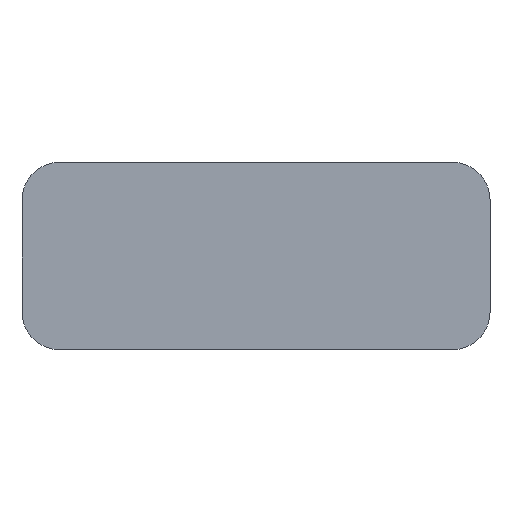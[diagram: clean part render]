
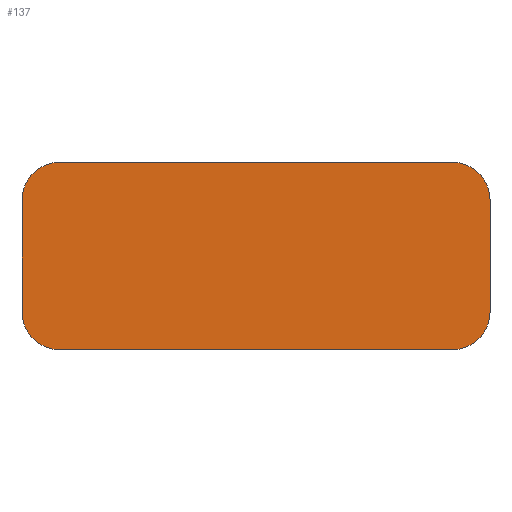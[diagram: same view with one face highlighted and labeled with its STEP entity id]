
A CAD part, top view. The second image highlights one B-rep face of the part: STEP entity #137.
In plain terms, the highlighted planar face has unit normal (0, 0, 1).
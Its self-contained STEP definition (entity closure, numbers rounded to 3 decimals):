
#21 = EDGE_CURVE('',#22,#24,#26,.T.);
#22 = VERTEX_POINT('',#23);
#23 = CARTESIAN_POINT('',(-30.,43.5,-7.8));
#24 = VERTEX_POINT('',#25);
#25 = CARTESIAN_POINT('',(-30.,45.3,-7.8));
#26 = SURFACE_CURVE('',#27,(#31,#43),.PCURVE_S1.);
#27 = LINE('',#28,#29);
#28 = CARTESIAN_POINT('',(-30.,42.9,-7.8));
#29 = VECTOR('',#30,1.);
#30 = DIRECTION('',(-0.,1.,0.));
#31 = PCURVE('',#32,#37);
#32 = PLANE('',#33);
#33 = AXIS2_PLACEMENT_3D('',#34,#35,#36);
#34 = CARTESIAN_POINT('',(-30.,42.9,-7.9));
#35 = DIRECTION('',(1.,0.,-0.));
#36 = DIRECTION('',(0.,0.,1.));
#37 = DEFINITIONAL_REPRESENTATION('',(#38),#42);
#38 = LINE('',#39,#40);
#39 = CARTESIAN_POINT('',(0.1,0.));
#40 = VECTOR('',#41,1.);
#41 = DIRECTION('',(0.,-1.));
#42 = ( GEOMETRIC_REPRESENTATION_CONTEXT(2) 
PARAMETRIC_REPRESENTATION_CONTEXT() REPRESENTATION_CONTEXT('2D SPACE',''
  ) );
#43 = PCURVE('',#44,#49);
#44 = PLANE('',#45);
#45 = AXIS2_PLACEMENT_3D('',#46,#47,#48);
#46 = CARTESIAN_POINT('',(-30.,42.9,-7.8));
#47 = DIRECTION('',(0.,0.,1.));
#48 = DIRECTION('',(1.,0.,-0.));
#49 = DEFINITIONAL_REPRESENTATION('',(#50),#54);
#50 = LINE('',#51,#52);
#51 = CARTESIAN_POINT('',(0.,0.));
#52 = VECTOR('',#53,1.);
#53 = DIRECTION('',(0.,1.));
#54 = ( GEOMETRIC_REPRESENTATION_CONTEXT(2) 
PARAMETRIC_REPRESENTATION_CONTEXT() REPRESENTATION_CONTEXT('2D SPACE',''
  ) );
#72 = CYLINDRICAL_SURFACE('',#73,0.6);
#73 = AXIS2_PLACEMENT_3D('',#74,#75,#76);
#74 = CARTESIAN_POINT('',(-29.4,43.5,-7.9));
#75 = DIRECTION('',(0.,0.,1.));
#76 = DIRECTION('',(-1.,-0.,0.));
#126 = CYLINDRICAL_SURFACE('',#127,0.6);
#127 = AXIS2_PLACEMENT_3D('',#128,#129,#130);
#128 = CARTESIAN_POINT('',(-29.4,45.3,-7.9));
#129 = DIRECTION('',(0.,0.,1.));
#130 = DIRECTION('',(-1.,-0.,0.));
#137 = ADVANCED_FACE('',(#138),#44,.T.);
#138 = FACE_BOUND('',#139,.T.);
#139 = EDGE_LOOP('',(#140,#141,#165,#193,#226,#254,#283,#311));
#140 = ORIENTED_EDGE('',*,*,#21,.F.);
#141 = ORIENTED_EDGE('',*,*,#142,.T.);
#142 = EDGE_CURVE('',#22,#143,#145,.T.);
#143 = VERTEX_POINT('',#144);
#144 = CARTESIAN_POINT('',(-29.4,42.9,-7.8));
#145 = SURFACE_CURVE('',#146,(#151,#158),.PCURVE_S1.);
#146 = CIRCLE('',#147,0.6);
#147 = AXIS2_PLACEMENT_3D('',#148,#149,#150);
#148 = CARTESIAN_POINT('',(-29.4,43.5,-7.8));
#149 = DIRECTION('',(0.,0.,1.));
#150 = DIRECTION('',(0.,-1.,0.));
#151 = PCURVE('',#44,#152);
#152 = DEFINITIONAL_REPRESENTATION('',(#153),#157);
#153 = CIRCLE('',#154,0.6);
#154 = AXIS2_PLACEMENT_2D('',#155,#156);
#155 = CARTESIAN_POINT('',(0.6,0.6));
#156 = DIRECTION('',(0.,-1.));
#157 = ( GEOMETRIC_REPRESENTATION_CONTEXT(2) 
PARAMETRIC_REPRESENTATION_CONTEXT() REPRESENTATION_CONTEXT('2D SPACE',''
  ) );
#158 = PCURVE('',#72,#159);
#159 = DEFINITIONAL_REPRESENTATION('',(#160),#164);
#160 = LINE('',#161,#162);
#161 = CARTESIAN_POINT('',(-4.712,0.1));
#162 = VECTOR('',#163,1.);
#163 = DIRECTION('',(1.,0.));
#164 = ( GEOMETRIC_REPRESENTATION_CONTEXT(2) 
PARAMETRIC_REPRESENTATION_CONTEXT() REPRESENTATION_CONTEXT('2D SPACE',''
  ) );
#165 = ORIENTED_EDGE('',*,*,#166,.T.);
#166 = EDGE_CURVE('',#143,#167,#169,.T.);
#167 = VERTEX_POINT('',#168);
#168 = CARTESIAN_POINT('',(-23.1,42.9,-7.8));
#169 = SURFACE_CURVE('',#170,(#174,#181),.PCURVE_S1.);
#170 = LINE('',#171,#172);
#171 = CARTESIAN_POINT('',(-30.,42.9,-7.8));
#172 = VECTOR('',#173,1.);
#173 = DIRECTION('',(1.,0.,-0.));
#174 = PCURVE('',#44,#175);
#175 = DEFINITIONAL_REPRESENTATION('',(#176),#180);
#176 = LINE('',#177,#178);
#177 = CARTESIAN_POINT('',(0.,0.));
#178 = VECTOR('',#179,1.);
#179 = DIRECTION('',(1.,0.));
#180 = ( GEOMETRIC_REPRESENTATION_CONTEXT(2) 
PARAMETRIC_REPRESENTATION_CONTEXT() REPRESENTATION_CONTEXT('2D SPACE',''
  ) );
#181 = PCURVE('',#182,#187);
#182 = PLANE('',#183);
#183 = AXIS2_PLACEMENT_3D('',#184,#185,#186);
#184 = CARTESIAN_POINT('',(-30.,42.9,-7.9));
#185 = DIRECTION('',(-0.,1.,0.));
#186 = DIRECTION('',(0.,0.,1.));
#187 = DEFINITIONAL_REPRESENTATION('',(#188),#192);
#188 = LINE('',#189,#190);
#189 = CARTESIAN_POINT('',(0.1,0.));
#190 = VECTOR('',#191,1.);
#191 = DIRECTION('',(0.,1.));
#192 = ( GEOMETRIC_REPRESENTATION_CONTEXT(2) 
PARAMETRIC_REPRESENTATION_CONTEXT() REPRESENTATION_CONTEXT('2D SPACE',''
  ) );
#193 = ORIENTED_EDGE('',*,*,#194,.F.);
#194 = EDGE_CURVE('',#195,#167,#197,.T.);
#195 = VERTEX_POINT('',#196);
#196 = CARTESIAN_POINT('',(-22.5,43.5,-7.8));
#197 = SURFACE_CURVE('',#198,(#203,#214),.PCURVE_S1.);
#198 = CIRCLE('',#199,0.6);
#199 = AXIS2_PLACEMENT_3D('',#200,#201,#202);
#200 = CARTESIAN_POINT('',(-23.1,43.5,-7.8));
#201 = DIRECTION('',(-0.,-0.,-1.));
#202 = DIRECTION('',(0.,-1.,0.));
#203 = PCURVE('',#44,#204);
#204 = DEFINITIONAL_REPRESENTATION('',(#205),#213);
#205 = ( BOUNDED_CURVE() B_SPLINE_CURVE(2,(#206,#207,#208,#209,#210,#211
,#212),.UNSPECIFIED.,.T.,.F.) B_SPLINE_CURVE_WITH_KNOTS((1,2,2,2,2,1),(
    -2.094,0.,2.094,4.189,6.283,
8.378),.UNSPECIFIED.) CURVE() GEOMETRIC_REPRESENTATION_ITEM() 
RATIONAL_B_SPLINE_CURVE((1.,0.5,1.,0.5,1.,0.5,1.)) REPRESENTATION_ITEM(
  '') );
#206 = CARTESIAN_POINT('',(6.9,0.));
#207 = CARTESIAN_POINT('',(5.861,0.));
#208 = CARTESIAN_POINT('',(6.38,0.9));
#209 = CARTESIAN_POINT('',(6.9,1.8));
#210 = CARTESIAN_POINT('',(7.42,0.9));
#211 = CARTESIAN_POINT('',(7.939,0.));
#212 = CARTESIAN_POINT('',(6.9,0.));
#213 = ( GEOMETRIC_REPRESENTATION_CONTEXT(2) 
PARAMETRIC_REPRESENTATION_CONTEXT() REPRESENTATION_CONTEXT('2D SPACE',''
  ) );
#214 = PCURVE('',#215,#220);
#215 = CYLINDRICAL_SURFACE('',#216,0.6);
#216 = AXIS2_PLACEMENT_3D('',#217,#218,#219);
#217 = CARTESIAN_POINT('',(-23.1,43.5,-7.9));
#218 = DIRECTION('',(0.,0.,1.));
#219 = DIRECTION('',(1.,0.,-0.));
#220 = DEFINITIONAL_REPRESENTATION('',(#221),#225);
#221 = LINE('',#222,#223);
#222 = CARTESIAN_POINT('',(4.712,0.1));
#223 = VECTOR('',#224,1.);
#224 = DIRECTION('',(-1.,0.));
#225 = ( GEOMETRIC_REPRESENTATION_CONTEXT(2) 
PARAMETRIC_REPRESENTATION_CONTEXT() REPRESENTATION_CONTEXT('2D SPACE',''
  ) );
#226 = ORIENTED_EDGE('',*,*,#227,.T.);
#227 = EDGE_CURVE('',#195,#228,#230,.T.);
#228 = VERTEX_POINT('',#229);
#229 = CARTESIAN_POINT('',(-22.5,45.3,-7.8));
#230 = SURFACE_CURVE('',#231,(#235,#242),.PCURVE_S1.);
#231 = LINE('',#232,#233);
#232 = CARTESIAN_POINT('',(-22.5,42.9,-7.8));
#233 = VECTOR('',#234,1.);
#234 = DIRECTION('',(-0.,1.,0.));
#235 = PCURVE('',#44,#236);
#236 = DEFINITIONAL_REPRESENTATION('',(#237),#241);
#237 = LINE('',#238,#239);
#238 = CARTESIAN_POINT('',(7.5,0.));
#239 = VECTOR('',#240,1.);
#240 = DIRECTION('',(0.,1.));
#241 = ( GEOMETRIC_REPRESENTATION_CONTEXT(2) 
PARAMETRIC_REPRESENTATION_CONTEXT() REPRESENTATION_CONTEXT('2D SPACE',''
  ) );
#242 = PCURVE('',#243,#248);
#243 = PLANE('',#244);
#244 = AXIS2_PLACEMENT_3D('',#245,#246,#247);
#245 = CARTESIAN_POINT('',(-22.5,42.9,-7.9));
#246 = DIRECTION('',(1.,0.,-0.));
#247 = DIRECTION('',(0.,0.,1.));
#248 = DEFINITIONAL_REPRESENTATION('',(#249),#253);
#249 = LINE('',#250,#251);
#250 = CARTESIAN_POINT('',(0.1,0.));
#251 = VECTOR('',#252,1.);
#252 = DIRECTION('',(0.,-1.));
#253 = ( GEOMETRIC_REPRESENTATION_CONTEXT(2) 
PARAMETRIC_REPRESENTATION_CONTEXT() REPRESENTATION_CONTEXT('2D SPACE',''
  ) );
#254 = ORIENTED_EDGE('',*,*,#255,.T.);
#255 = EDGE_CURVE('',#228,#256,#258,.T.);
#256 = VERTEX_POINT('',#257);
#257 = CARTESIAN_POINT('',(-23.1,45.9,-7.8));
#258 = SURFACE_CURVE('',#259,(#264,#271),.PCURVE_S1.);
#259 = CIRCLE('',#260,0.6);
#260 = AXIS2_PLACEMENT_3D('',#261,#262,#263);
#261 = CARTESIAN_POINT('',(-23.1,45.3,-7.8));
#262 = DIRECTION('',(0.,0.,1.));
#263 = DIRECTION('',(0.,-1.,0.));
#264 = PCURVE('',#44,#265);
#265 = DEFINITIONAL_REPRESENTATION('',(#266),#270);
#266 = CIRCLE('',#267,0.6);
#267 = AXIS2_PLACEMENT_2D('',#268,#269);
#268 = CARTESIAN_POINT('',(6.9,2.4));
#269 = DIRECTION('',(0.,-1.));
#270 = ( GEOMETRIC_REPRESENTATION_CONTEXT(2) 
PARAMETRIC_REPRESENTATION_CONTEXT() REPRESENTATION_CONTEXT('2D SPACE',''
  ) );
#271 = PCURVE('',#272,#277);
#272 = CYLINDRICAL_SURFACE('',#273,0.6);
#273 = AXIS2_PLACEMENT_3D('',#274,#275,#276);
#274 = CARTESIAN_POINT('',(-23.1,45.3,-7.9));
#275 = DIRECTION('',(0.,0.,1.));
#276 = DIRECTION('',(1.,0.,-0.));
#277 = DEFINITIONAL_REPRESENTATION('',(#278),#282);
#278 = LINE('',#279,#280);
#279 = CARTESIAN_POINT('',(-1.571,0.1));
#280 = VECTOR('',#281,1.);
#281 = DIRECTION('',(1.,0.));
#282 = ( GEOMETRIC_REPRESENTATION_CONTEXT(2) 
PARAMETRIC_REPRESENTATION_CONTEXT() REPRESENTATION_CONTEXT('2D SPACE',''
  ) );
#283 = ORIENTED_EDGE('',*,*,#284,.F.);
#284 = EDGE_CURVE('',#285,#256,#287,.T.);
#285 = VERTEX_POINT('',#286);
#286 = CARTESIAN_POINT('',(-29.4,45.9,-7.8));
#287 = SURFACE_CURVE('',#288,(#292,#299),.PCURVE_S1.);
#288 = LINE('',#289,#290);
#289 = CARTESIAN_POINT('',(-30.,45.9,-7.8));
#290 = VECTOR('',#291,1.);
#291 = DIRECTION('',(1.,0.,-0.));
#292 = PCURVE('',#44,#293);
#293 = DEFINITIONAL_REPRESENTATION('',(#294),#298);
#294 = LINE('',#295,#296);
#295 = CARTESIAN_POINT('',(0.,3.));
#296 = VECTOR('',#297,1.);
#297 = DIRECTION('',(1.,0.));
#298 = ( GEOMETRIC_REPRESENTATION_CONTEXT(2) 
PARAMETRIC_REPRESENTATION_CONTEXT() REPRESENTATION_CONTEXT('2D SPACE',''
  ) );
#299 = PCURVE('',#300,#305);
#300 = PLANE('',#301);
#301 = AXIS2_PLACEMENT_3D('',#302,#303,#304);
#302 = CARTESIAN_POINT('',(-30.,45.9,-7.9));
#303 = DIRECTION('',(-0.,1.,0.));
#304 = DIRECTION('',(0.,0.,1.));
#305 = DEFINITIONAL_REPRESENTATION('',(#306),#310);
#306 = LINE('',#307,#308);
#307 = CARTESIAN_POINT('',(0.1,0.));
#308 = VECTOR('',#309,1.);
#309 = DIRECTION('',(0.,1.));
#310 = ( GEOMETRIC_REPRESENTATION_CONTEXT(2) 
PARAMETRIC_REPRESENTATION_CONTEXT() REPRESENTATION_CONTEXT('2D SPACE',''
  ) );
#311 = ORIENTED_EDGE('',*,*,#312,.F.);
#312 = EDGE_CURVE('',#24,#285,#313,.T.);
#313 = SURFACE_CURVE('',#314,(#319,#330),.PCURVE_S1.);
#314 = CIRCLE('',#315,0.6);
#315 = AXIS2_PLACEMENT_3D('',#316,#317,#318);
#316 = CARTESIAN_POINT('',(-29.4,45.3,-7.8));
#317 = DIRECTION('',(-0.,-0.,-1.));
#318 = DIRECTION('',(0.,-1.,0.));
#319 = PCURVE('',#44,#320);
#320 = DEFINITIONAL_REPRESENTATION('',(#321),#329);
#321 = ( BOUNDED_CURVE() B_SPLINE_CURVE(2,(#322,#323,#324,#325,#326,#327
,#328),.UNSPECIFIED.,.T.,.F.) B_SPLINE_CURVE_WITH_KNOTS((1,2,2,2,2,1),(
    -2.094,0.,2.094,4.189,6.283,
8.378),.UNSPECIFIED.) CURVE() GEOMETRIC_REPRESENTATION_ITEM() 
RATIONAL_B_SPLINE_CURVE((1.,0.5,1.,0.5,1.,0.5,1.)) REPRESENTATION_ITEM(
  '') );
#322 = CARTESIAN_POINT('',(0.6,1.8));
#323 = CARTESIAN_POINT('',(-0.439,1.8));
#324 = CARTESIAN_POINT('',(0.08,2.7));
#325 = CARTESIAN_POINT('',(0.6,3.6));
#326 = CARTESIAN_POINT('',(1.12,2.7));
#327 = CARTESIAN_POINT('',(1.639,1.8));
#328 = CARTESIAN_POINT('',(0.6,1.8));
#329 = ( GEOMETRIC_REPRESENTATION_CONTEXT(2) 
PARAMETRIC_REPRESENTATION_CONTEXT() REPRESENTATION_CONTEXT('2D SPACE',''
  ) );
#330 = PCURVE('',#126,#331);
#331 = DEFINITIONAL_REPRESENTATION('',(#332),#336);
#332 = LINE('',#333,#334);
#333 = CARTESIAN_POINT('',(1.571,0.1));
#334 = VECTOR('',#335,1.);
#335 = DIRECTION('',(-1.,0.));
#336 = ( GEOMETRIC_REPRESENTATION_CONTEXT(2) 
PARAMETRIC_REPRESENTATION_CONTEXT() REPRESENTATION_CONTEXT('2D SPACE',''
  ) );
